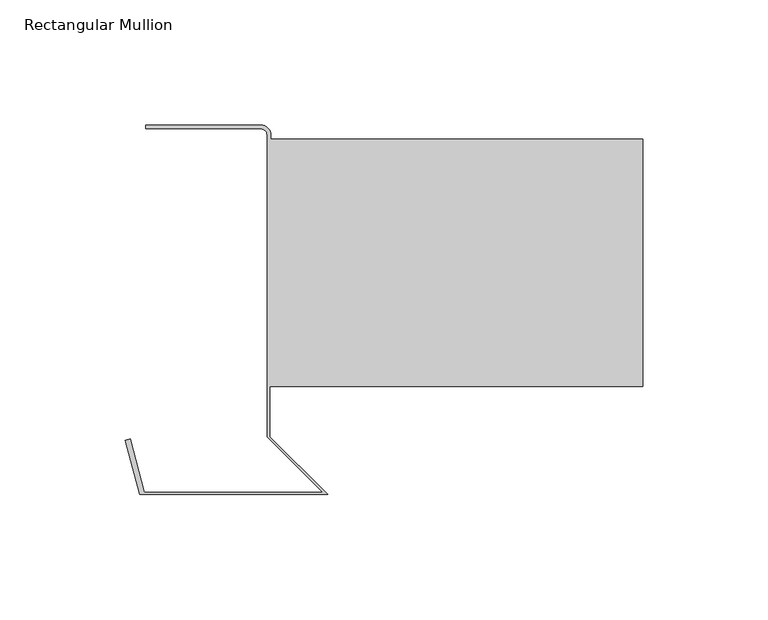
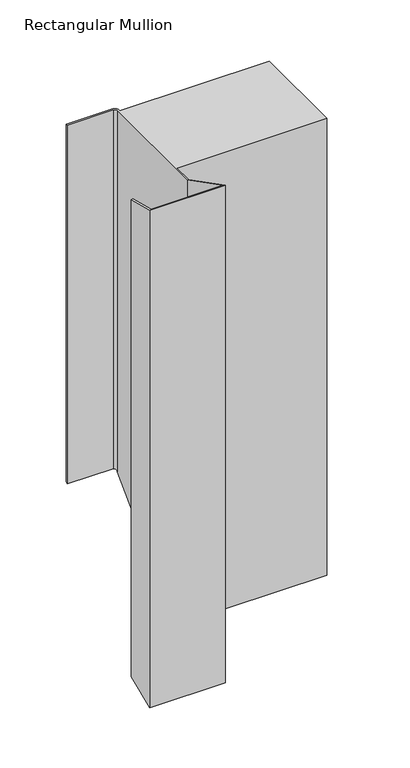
"""IFC4 building model written with IfcOpenShell, lengths in millimetres: member geometry, Rectangular Mullion : TE-V-02_01_Base detail i."""

import ifcopenshell
import ifcopenshell.guid

model = None  # the IFC model being written
_history = None  # IfcOwnerHistory: only IFC2X3 demands one
_inside = {}  # id of a spatial element -> (the spatial element, [elements in it])
_under = {}  # id of a project, library or spatial element -> (it, [spatial elements below it])
_declared = {}  # id of a project -> (the project, [libraries it declares])
_typed = {}  # id of a type object -> (the type object, [elements of that type])
_made_of = {}  # id of a material, layer set ... -> (it, [elements and type objects made of it])


def new_model(schema):
    """Start an empty IFC model of exactly this schema.

    Asked for "IFC4X3", IfcOpenShell would pick the latest addendum, in which some entities
    have other attributes; the version numbers below select the first issue.
    IFC2X3 requires an IfcOwnerHistory on every rooted entity: one is made here for all.
    """
    global model, _history
    if schema == "IFC4X3":
        model = ifcopenshell.file(schema_version=(4, 3, 0, 0))
    else:
        model = ifcopenshell.file(schema=schema)
    _inside.clear()
    _under.clear()
    _declared.clear()
    _typed.clear()
    _made_of.clear()
    _history = None
    if model.schema == "IFC2X3":
        org = make("IfcOrganization", Name="unknown")
        user = make(
            "IfcPersonAndOrganization",
            ThePerson=make("IfcPerson", FamilyName="unknown"),
            TheOrganization=org,
        )
        app = make(
            "IfcApplication",
            ApplicationDeveloper=org,
            Version="unknown",
            ApplicationFullName="unknown",
            ApplicationIdentifier="unknown",
        )
        _history = make(
            "IfcOwnerHistory",
            OwningUser=user,
            OwningApplication=app,
            ChangeAction="ADDED",
            CreationDate=0,
        )
    return model


def make(cls, **values):
    """One entity of the class cls with the attributes given. An attribute that is None is left unset."""
    return model.create_entity(
        cls, **{name: value for name, value in values.items() if value is not None}
    )


def rooted(cls, **values):
    """An entity with a GlobalId (a new one), such as an element, a storey or a relation."""
    return make(cls, GlobalId=ifcopenshell.guid.new(), OwnerHistory=_history, **values)


def si_unit(unit_type, name, prefix=None):
    """IfcSIUnit, for example si_unit("LENGTHUNIT", "METRE", prefix="MILLI")."""
    return make("IfcSIUnit", UnitType=unit_type, Prefix=prefix, Name=name)


def assignment(units):
    """IfcUnitAssignment: the units of a project."""
    return None if units is None else make("IfcUnitAssignment", Units=units)


def point(xyz):
    """IfcCartesianPoint."""
    return None if xyz is None else make("IfcCartesianPoint", Coordinates=xyz)


def direction(xyz):
    """IfcDirection."""
    return None if xyz is None else make("IfcDirection", DirectionRatios=xyz)


def frame(location, z_axis=None, x_axis=None):
    """IfcAxis2Placement3D, a coordinate frame: its origin and axes. An axis left out is left unset."""
    return make(
        "IfcAxis2Placement3D",
        Location=point(location),
        Axis=direction(z_axis),
        RefDirection=direction(x_axis),
    )


def origin():
    """The frame at (0, 0, 0) with its axes left unset."""
    return frame((0.0, 0.0, 0.0))


def place(relative_to, where):
    """IfcLocalPlacement: puts the frame where relative to a parent placement (None: the world)."""
    return make(
        "IfcLocalPlacement", PlacementRelTo=relative_to, RelativePlacement=where
    )


def context(
    kind, dimensions, precision=None, world=None, true_north=None, identifier=None
):
    """IfcGeometricRepresentationContext, for example the 3D "Model" context."""
    return make(
        "IfcGeometricRepresentationContext",
        ContextIdentifier=identifier,
        ContextType=kind,
        CoordinateSpaceDimension=dimensions,
        Precision=precision,
        WorldCoordinateSystem=world,
        TrueNorth=true_north,
    )


def project(units=None, contexts=None):
    """IfcProject with its units and contexts."""
    return rooted(
        "IfcProject",
        Name="project",
        RepresentationContexts=contexts,
        UnitsInContext=assignment(units),
    )


def spatial(cls, under=None, at=None, **own):
    """A site, building, storey or space (cls), placed at a placement, below another one or the project."""
    s = rooted(cls, ObjectPlacement=at, **own)
    if under is not None:
        _under.setdefault(under.id(), (under, []))[1].append(s)
    return s


def polyline(points):
    """IfcPolyline through the points."""
    return make("IfcPolyline", Points=[point(p) for p in points])


def circle_curve(where, radius):
    """IfcCircle in the frame where."""
    return make("IfcCircle", Position=where, Radius=radius)


def ellipse_curve(where, semi_axis1, semi_axis2):
    """IfcEllipse in the frame where."""
    return make(
        "IfcEllipse", Position=where, SemiAxis1=semi_axis1, SemiAxis2=semi_axis2
    )


def shape(context_of_items, identifier, shape_type, items):
    """IfcShapeRepresentation: the items that make up one representation, for example the "Body"."""
    return make(
        "IfcShapeRepresentation",
        ContextOfItems=context_of_items,
        RepresentationIdentifier=identifier,
        RepresentationType=shape_type,
        Items=items,
    )


def source(mapping_origin, context_of_items, identifier, shape_type, items):
    """IfcRepresentationMap: a shape defined once, which mapped items show again and again."""
    return make(
        "IfcRepresentationMap",
        MappingOrigin=mapping_origin,
        MappedRepresentation=shape(context_of_items, identifier, shape_type, items),
    )


def transform(
    local_origin,
    x_axis=None,
    y_axis=None,
    z_axis=None,
    scale=None,
    scale2=None,
    scale3=None,
    uniform=True,
):
    """IfcCartesianTransformationOperator3D, or its non-uniform kind. x_axis, y_axis, z_axis: its Axis1, 2, 3."""
    if uniform:
        return make(
            "IfcCartesianTransformationOperator3D",
            Axis1=direction(x_axis),
            Axis2=direction(y_axis),
            LocalOrigin=point(local_origin),
            Scale=scale,
            Axis3=direction(z_axis),
        )
    return make(
        "IfcCartesianTransformationOperator3DnonUniform",
        Axis1=direction(x_axis),
        Axis2=direction(y_axis),
        LocalOrigin=point(local_origin),
        Scale=scale,
        Axis3=direction(z_axis),
        Scale2=scale2,
        Scale3=scale3,
    )


def mapped(mapping_source, mapping_target):
    """IfcMappedItem: shows the shape of a source again, moved by a transform."""
    return make(
        "IfcMappedItem", MappingSource=mapping_source, MappingTarget=mapping_target
    )


def made_of(thing, what):
    """Note that an element or type object is made of a material, layer set ...; save() writes the relation."""
    if what is not None:
        _made_of.setdefault(what.id(), (what, []))[1].append(thing)
    return thing


def element(
    cls,
    number,
    at=None,
    inside=None,
    cuts=None,
    type_object=None,
    material=None,
    context=None,
    identifier="Body",
    shape_type=None,
    held_by="IfcProductDefinitionShape",
    body=None,
    shapes=None,
    **own,
):
    """One element of the class cls, such as IfcWall. Its Tag is "e" and its number.

    at: its placement. inside: the storey or other place that contains it. cuts: it is an
    opening in that element (IfcRelVoidsElement). A single representation is given by context,
    identifier, shape_type and body (its items); several are given by shapes. held_by: the class
    of the entity that holds the representations. save() writes the other relations.
    """
    e = rooted(cls, Tag="e%d" % number, ObjectPlacement=at, **own)
    if body is not None:
        shapes = [shape(context, identifier, shape_type, body)]
    if shapes is not None:
        e.Representation = make(held_by, Representations=shapes)
    if inside is not None:
        _inside.setdefault(inside.id(), (inside, []))[1].append(e)
    if cuts is not None:
        rooted(
            "IfcRelVoidsElement", RelatingBuildingElement=cuts, RelatedOpeningElement=e
        )
    if type_object is not None:
        _typed.setdefault(type_object.id(), (type_object, []))[1].append(e)
    return made_of(e, material)


def aggregate(whole, parts):
    """IfcRelAggregates: a whole, such as a stair, and the parts it consists of."""
    return rooted("IfcRelAggregates", RelatingObject=whole, RelatedObjects=parts)


def save(model, path):
    """Write the relations noted so far, then the file.

    IfcRelAggregates (storeys below a building ...), IfcRelContainedInSpatialStructure (elements
    in a storey), IfcRelDefinesByType, IfcRelAssociatesMaterial and IfcRelDeclares: one each for
    every whole, place, type object, material and project.
    """
    for whole, parts in _under.values():
        aggregate(whole, parts)
    for where, things in _inside.values():
        rooted(
            "IfcRelContainedInSpatialStructure",
            RelatedElements=things,
            RelatingStructure=where,
        )
    for kind, things in _typed.values():
        rooted("IfcRelDefinesByType", RelatedObjects=things, RelatingType=kind)
    for what, things in _made_of.values():
        rooted("IfcRelAssociatesMaterial", RelatedObjects=things, RelatingMaterial=what)
    for by, libraries in _declared.values():
        rooted("IfcRelDeclares", RelatingContext=by, RelatedDefinitions=libraries)
    model.write(path)


def plane_surface(at):
    """IfcPlane: the flat surface through the origin of the frame at, square to its z axis."""
    return make("IfcPlane", Position=at)


def cylinder_surface(at, radius):
    """IfcCylindricalSurface: all points at the distance radius from the z axis of the frame at."""
    return make("IfcCylindricalSurface", Position=at, Radius=radius)


def revolved_surface(curve, axis_point, axis_direction):
    """IfcSurfaceOfRevolution: the curve turned about the line through axis_point along axis_direction."""
    return make(
        "IfcSurfaceOfRevolution",
        SweptCurve=make("IfcArbitraryOpenProfileDef", ProfileType="CURVE", Curve=curve),
        AxisPosition=make("IfcAxis1Placement", Location=point(axis_point), Axis=direction(axis_direction)),
    )


def advanced_brep(points, edges, surfaces, faces):
    """IfcAdvancedBrep: a solid bounded by faces that lie on surfaces and meet in shared edges.

    An edge is (start, end): straight between two places in points (the first is 0);
    or (start, end, curve); or (start, end, curve, False) where it runs against its curve.
    A face is (place in surfaces, loops), or (place, loops, False) where it looks against
    its surface's normal. A loop lists edges by number (the first is 1), with a minus sign
    where the edge is run from its end to its start. The first loop is the outer one.
    """
    corners = [point(p) for p in points]
    vertices = [make("IfcVertexPoint", VertexGeometry=c) for c in corners]
    made = []
    for start, end, *more in edges:
        made.append(
            make(
                "IfcEdgeCurve",
                EdgeStart=vertices[start],
                EdgeEnd=vertices[end],
                EdgeGeometry=more[0] if more else make("IfcPolyline", Points=[corners[start], corners[end]]),
                SameSense=more[1] if len(more) > 1 else True,
            )
        )
    hull = []
    for where, loops, *sense in faces:
        bounds = []
        for j, loop in enumerate(loops):
            ring = [make("IfcOrientedEdge", EdgeElement=made[abs(k) - 1], Orientation=k > 0) for k in loop]
            bounds.append(
                make(
                    "IfcFaceOuterBound" if j == 0 else "IfcFaceBound",
                    Bound=make("IfcEdgeLoop", EdgeList=ring),
                    Orientation=True,
                )
            )
        hull.append(make("IfcAdvancedFace", Bounds=bounds, FaceSurface=surfaces[where], SameSense=sense[0] if sense else True))
    return make("IfcAdvancedBrep", Outer=make("IfcClosedShell", CfsFaces=hull))


def rectangular_mullion_1c96e24a(model_context):
    return source(origin(), model_context, "Body", "AdvancedBrep", [
        advanced_brep(
        [(-148.8686292, 20.0, 0.0), (0.0, 20.0, 0.0), (0.0, 119.0, 0.0), (-148.5, 119.0, 0.0), (-148.5, 120.5, 0.0), (-152.5, 124.5, 0.0), (-198.5, 124.5, 0.0), (-198.5, 123.0, 0.0), (-152.5, 123.0, 0.0), (-150.0, 120.5, 0.0), (-150.0, 0.0, 0.0), (-127.8, -22.2, 0.0), (-199.0124361, -22.2, 0.0), (-204.7064551, -0.9496318, 0.0), (-206.6383068, -1.4672699, 0.0), (-200.8686292, -23.0, 0.0), (-125.8686292, -23.0, 0.0), (-148.8686292, 0.0, 0.0), (-148.8686292, 20.0, -480.0000003), (0.0, 20.0, -480.0000003), (0.0, 119.0, -381.0000003), (-148.5, 119.0, -381.0000003), (-148.5, 120.5, -379.5000003), (-152.5, 124.5, -375.5000003), (-198.5, 124.5, -375.5000003), (-198.5, 123.0, -377.0000003), (-152.5, 123.0, -377.0000003), (-150.0, 120.5, -379.5000003), (-150.0, 0.0, -500.0000003), (-127.8, -22.2, -522.2000003), (-199.0124361, -22.2, -522.2000003), (-204.7064551, -0.9496318, -500.9496321), (-206.6383068, -1.4672699, -501.4672702), (-200.8686292, -23.0, -523.0000003), (-125.8686292, -23.0, -523.0000003), (-148.8686292, 0.0, -500.0000003)],
        [
            (0, 1),
            (1, 2),
            (2, 3),
            (3, 4),
            (4, 5, circle_curve(frame((-152.5, 120.5, 0.0), z_axis=(0.0, 0.0, 1.0), x_axis=(-1.0, 0.0, 0.0)), 4.0)),
            (5, 6),
            (6, 7),
            (7, 8),
            (8, 9, circle_curve(frame((-152.5, 120.5, 0.0), z_axis=(0.0, 0.0, -1.0), x_axis=(-1.0, 0.0, 0.0)), 2.5)),
            (9, 10),
            (10, 11),
            (11, 12),
            (12, 13),
            (13, 14),
            (14, 15),
            (15, 16),
            (16, 17),
            (17, 0),
            (0, 18),
            (18, 19),
            (19, 1),
            (19, 20),
            (20, 2),
            (20, 21),
            (21, 3),
            (21, 22),
            (22, 4),
            (22, 23, ellipse_curve(frame((-152.5, 120.5, -379.5000003), z_axis=(0.0, -0.7071067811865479, 0.7071067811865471), x_axis=(0.0, 0.7071067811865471, 0.7071067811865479)), 5.6568542, 4.0)),
            (23, 5),
            (23, 24),
            (24, 6),
            (24, 25),
            (25, 7),
            (25, 26),
            (26, 8),
            (26, 27, ellipse_curve(frame((-152.5, 120.5, -379.5000003), z_axis=(0.0, 0.7071067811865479, -0.7071067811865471), x_axis=(0.0, -0.7071067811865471, -0.7071067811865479)), 3.5355339, 2.5)),
            (27, 9),
            (27, 28),
            (28, 10),
            (28, 29),
            (29, 11),
            (29, 30),
            (30, 12),
            (30, 31),
            (31, 13),
            (31, 32),
            (32, 14),
            (32, 33),
            (33, 15),
            (33, 34),
            (34, 16),
            (34, 35),
            (35, 17),
            (35, 18),
        ],
        [
            plane_surface(frame((0.0, -234.3128251, 0.0), z_axis=(0.0, 0.0, 1.0), x_axis=(-1.0, 0.0, 0.0))),
            plane_surface(frame((-148.8686292, 20.0, 0.0), z_axis=(0.0, -1.0, 0.0), x_axis=(0.0, 0.0, -1.0))),
            plane_surface(frame((0.0, 20.0, 0.0), z_axis=(1.0, 0.0, 0.0), x_axis=(0.0, 0.0, -1.0))),
            plane_surface(frame((0.0, 119.0, 0.0), z_axis=(0.0, 1.0, 0.0), x_axis=(0.0, 0.0, -1.0))),
            plane_surface(frame((-148.5, 119.0, 0.0), z_axis=(1.0, 0.0, 0.0), x_axis=(0.0, 0.0, -1.0))),
            cylinder_surface(frame((-152.5, 120.5, 0.0), z_axis=(0.0, 0.0, 1.0), x_axis=(-1.0, 0.0, 0.0)), 4.0),
            plane_surface(frame((-152.5, 124.5, 0.0), z_axis=(0.0, 1.0, 0.0), x_axis=(0.0, 0.0, -1.0))),
            plane_surface(frame((-198.5, 124.5, 0.0), z_axis=(-1.0, 0.0, 0.0), x_axis=(0.0, 0.0, -1.0))),
            plane_surface(frame((-198.5, 123.0, 0.0), z_axis=(0.0, -1.0, 0.0), x_axis=(0.0, 0.0, -1.0))),
            revolved_surface(polyline([(-155.0, 120.5, -382.0000002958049), (-155.0, 120.5, 0.0)]), (-152.5, 120.5, 0.0), (0.0, 0.0, -1.0)),
            plane_surface(frame((-150.0, 120.5, 0.0), z_axis=(-1.0, 0.0, 0.0), x_axis=(0.0, 0.0, -1.0))),
            plane_surface(frame((-150.0, 0.0, 0.0), z_axis=(-0.7071067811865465, -0.7071067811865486, 0.0), x_axis=(0.0, 0.0, -1.0))),
            plane_surface(frame((-127.8, -22.2, 0.0), z_axis=(0.0, 1.0, 0.0), x_axis=(0.0, 0.0, -1.0))),
            plane_surface(frame((-199.0124361, -22.2, 0.0), z_axis=(0.9659258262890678, 0.2588190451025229, 0.0), x_axis=(0.0, 0.0, -1.0))),
            plane_surface(frame((-204.7064551, -0.9496318, 0.0), z_axis=(-0.25881904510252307, 0.9659258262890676, 0.0), x_axis=(0.0, 0.0, -1.0))),
            plane_surface(frame((-206.6383068, -1.4672699, 0.0), z_axis=(-0.9659258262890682, -0.2588190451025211, 0.0), x_axis=(0.0, 0.0, -1.0))),
            plane_surface(frame((-200.8686292, -23.0, 0.0), z_axis=(0.0, -1.0, 0.0), x_axis=(0.0, 0.0, -1.0))),
            plane_surface(frame((-125.8686292, -23.0, 0.0), z_axis=(0.7071067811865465, 0.7071067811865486, 0.0), x_axis=(0.0, 0.0, -1.0))),
            plane_surface(frame((-148.8686292, 0.0, 0.0), z_axis=(1.0, 0.0, 0.0), x_axis=(0.0, 0.0, -1.0))),
            plane_surface(frame((-304.8, 0.0, -500.0000003), z_axis=(0.0, 0.7071067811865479, -0.7071067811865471), x_axis=(0.0, 0.7071067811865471, 0.7071067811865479))),
        ],
        [
            (0, [[1, 2, 3, 4, 5, 6, 7, 8, 9, 10, 11, 12, 13, 14, 15, 16, 17, 18]]),
            (1, [[-1, 19, 20, 21]]),
            (2, [[-2, -21, 22, 23]]),
            (3, [[-3, -23, 24, 25]]),
            (4, [[-4, -25, 26, 27]]),
            (5, [[-5, -27, 28, 29]]),
            (6, [[-6, -29, 30, 31]]),
            (7, [[-7, -31, 32, 33]]),
            (8, [[-8, -33, 34, 35]]),
            (9, [[-9, -35, 36, 37]]),
            (10, [[-10, -37, 38, 39]]),
            (11, [[-11, -39, 40, 41]]),
            (12, [[-12, -41, 42, 43]]),
            (13, [[-13, -43, 44, 45]]),
            (14, [[-14, -45, 46, 47]]),
            (15, [[-15, -47, 48, 49]]),
            (16, [[-16, -49, 50, 51]]),
            (17, [[-17, -51, 52, 53]]),
            (18, [[-18, -53, 54, -19]]),
            (19, [[-54, -52, -50, -48, -46, -44, -42, -40, -38, -36, -34, -32, -30, -28, -26, -24, -22, -20]]),
        ],
    ),
    ])


if __name__ == "__main__":
    model = new_model("IFC4")
    model_context = context("Model", 3, world=origin())
    ifc_project = project(units=[si_unit("LENGTHUNIT", "METRE", prefix="MILLI")], contexts=[model_context])
    site = spatial("IfcSite", under=ifc_project)
    building = spatial("IfcBuilding", under=site)
    placement = place(None, origin())
    rectangular_mullion_shape = rectangular_mullion_1c96e24a(model_context)
    element("IfcMember", 1, ObjectType="Rectangular Mullion : TE-V-02_01_Base detail i", at=placement, inside=building, context=model_context, shape_type="MappedRepresentation", body=[
        mapped(rectangular_mullion_shape, transform((0.0, 0.0, 0.0), x_axis=(1.0, 0.0, 0.0), y_axis=(0.0, 1.0, 0.0), z_axis=(0.0, 0.0, 1.0))),
    ])
    save(model, "model.ifc")
